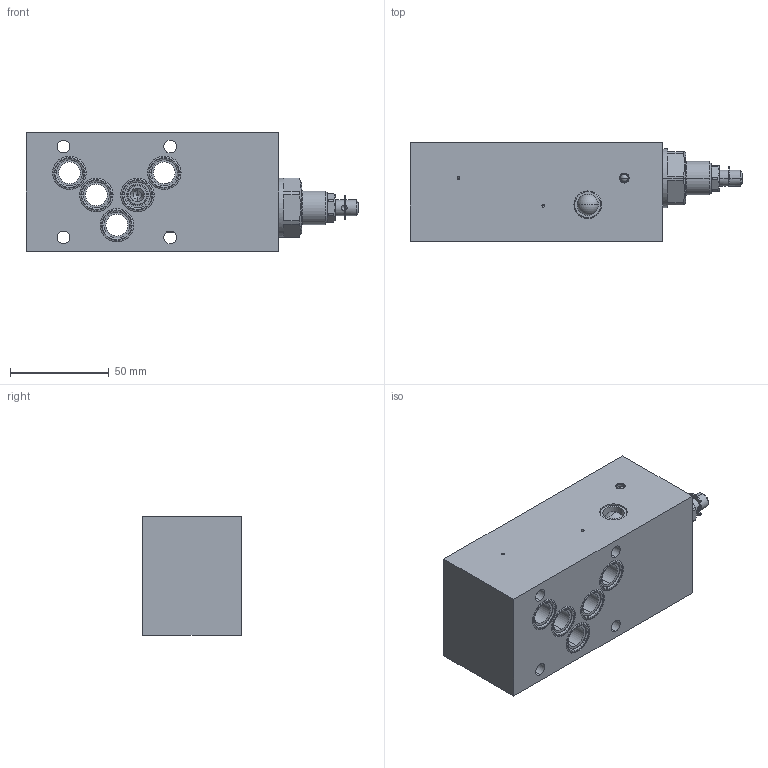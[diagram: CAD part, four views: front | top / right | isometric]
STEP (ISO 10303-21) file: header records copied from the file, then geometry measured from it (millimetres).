
FILE_DESCRIPTION (( 'STEP AP214' ), '1' );
FILE_NAME ('FVSSA10-B.STEP', '2017-03-23T07:10:28', ( '' ), ( '' ), 'SwSTEP 2.0', 'SolidWorks 2016', '' );
FILE_SCHEMA (( 'AUTOMOTIVE_DESIGN' ));
Length unit declared in the file: millimetre
Products named in the file (1): FVSSA10-B
Bounding box: 168.1 x 50 x 60 mm (x, y, z)
Volume: 363997.6 mm3; surface area: 54835.6 mm2
Topology: 11 solids, 15 shells, 419 faces, 1015 edges, 635 vertices
Faces by surface type: cylinder 168, plane 112, cone 71, bspline 40, torus 16, sphere 12
Entity records: 17943 total; most frequent: CARTESIAN_POINT 3760, DIRECTION 2064, ORIENTED_EDGE 1986, EDGE_CURVE 993, AXIS2_PLACEMENT_3D 875, VERTEX_POINT 635, CIRCLE 495, EDGE_LOOP 480
